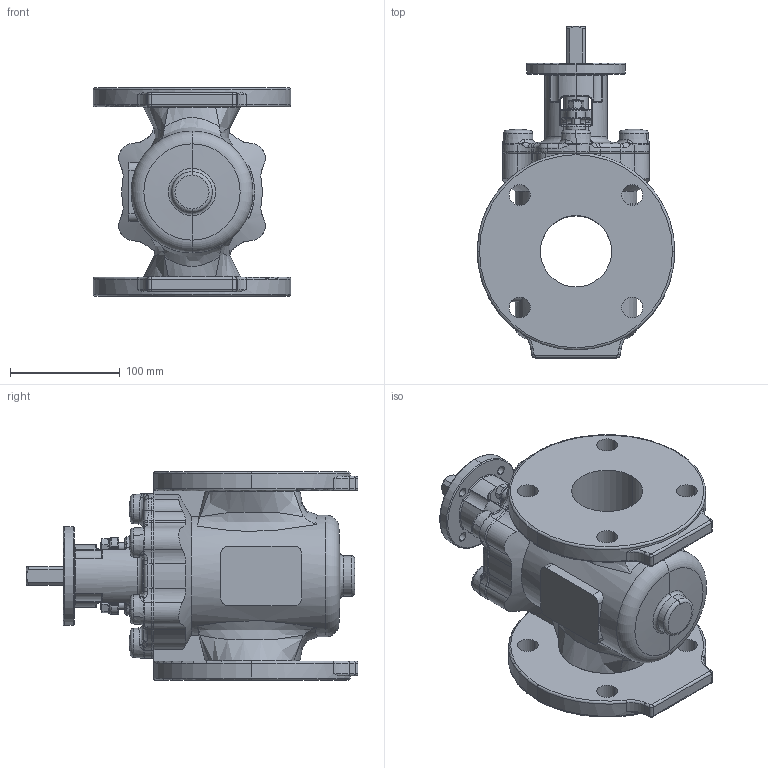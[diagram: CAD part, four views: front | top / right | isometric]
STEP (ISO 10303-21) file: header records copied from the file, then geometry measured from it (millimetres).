
FILE_DESCRIPTION (( 'STEP AP203' ), '1' );
FILE_NAME ('O_764_01_DN065_1XXXXXX000_REV02.step', '2021-02-03T08:50:26', ( '' ), ( '' ), 'SwSTEP 2.0', 'SolidWorks 2019', '' );
FILE_SCHEMA (( 'CONFIG_CONTROL_DESIGN' ));
Length unit declared in the file: millimetre
Products named in the file (1): O_764_01_DN065_1XXXXXX000_REV02
Bounding box: 180 x 302.5 x 190 mm (x, y, z)
Volume: 2781569.8 mm3; surface area: 279593.7 mm2
Topology: 1 solids, 1 shells, 706 faces, 1775 edges, 1066 vertices
Faces by surface type: cylinder 188, bspline 178, torus 161, plane 111, cone 56, sphere 12
Entity records: 32094 total; most frequent: CARTESIAN_POINT 16249, ORIENTED_EDGE 3510, DIRECTION 3182, EDGE_CURVE 1755, AXIS2_PLACEMENT_3D 1410, VERTEX_POINT 1066, CIRCLE 881, EDGE_LOOP 755
